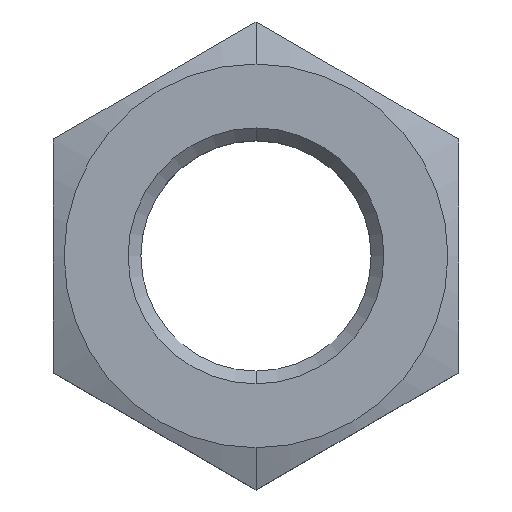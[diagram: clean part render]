
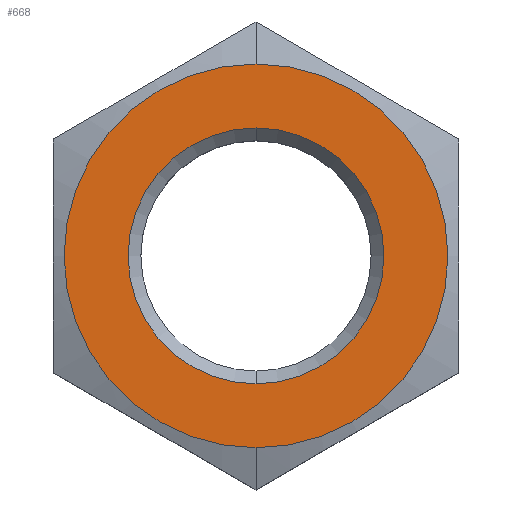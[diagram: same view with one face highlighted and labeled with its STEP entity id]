
A CAD part, top view. The second image highlights one B-rep face of the part: STEP entity #668.
In plain terms, the highlighted planar face has unit normal (0, 0, 1).
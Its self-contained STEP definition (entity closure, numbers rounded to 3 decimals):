
#127=CARTESIAN_POINT('',(0.,0.,7.));
#128=DIRECTION('',(0.,0.,1.));
#129=DIRECTION('',(0.,1.,0.));
#130=AXIS2_PLACEMENT_3D('',#127,#128,#129);
#135=CARTESIAN_POINT('',(0.,0.,7.));
#136=DIRECTION('',(0.,0.,1.));
#137=DIRECTION('',(0.,-1.,0.));
#138=AXIS2_PLACEMENT_3D('',#135,#136,#137);
#143=CARTESIAN_POINT('',(0.,0.,7.));
#144=DIRECTION('',(0.,0.,1.));
#145=DIRECTION('',(0.,1.,0.));
#146=AXIS2_PLACEMENT_3D('',#143,#144,#145);
#151=CARTESIAN_POINT('',(0.,0.,7.));
#152=DIRECTION('',(0.,0.,1.));
#153=DIRECTION('',(0.,-1.,0.));
#154=AXIS2_PLACEMENT_3D('',#151,#152,#153);
#528=CARTESIAN_POINT('',(0.,9.,7.));
#529=CARTESIAN_POINT('',(0.,-9.,7.));
#530=VERTEX_POINT('',#528);
#531=VERTEX_POINT('',#529);
#532=CARTESIAN_POINT('',(0.,6.,7.));
#533=CARTESIAN_POINT('',(0.,-6.,7.));
#534=VERTEX_POINT('',#532);
#535=VERTEX_POINT('',#533);
#652=CARTESIAN_POINT('',(0.,0.,7.));
#653=DIRECTION('',(0.,0.,1.));
#654=DIRECTION('',(1.,0.,0.));
#655=AXIS2_PLACEMENT_3D('',#652,#653,#654);
#656=PLANE('',#655);
#658=ORIENTED_EDGE('',*,*,#657,.F.);
#659=ORIENTED_EDGE('',*,*,#638,.F.);
#660=EDGE_LOOP('',(#658,#659));
#661=FACE_OUTER_BOUND('',#660,.F.);
#663=ORIENTED_EDGE('',*,*,#662,.T.);
#665=ORIENTED_EDGE('',*,*,#664,.T.);
#666=EDGE_LOOP('',(#663,#665));
#667=FACE_BOUND('',#666,.F.);
#668=ADVANCED_FACE('',(#661,#667),#656,.T.);
#131=CIRCLE('',#130,9.);
#139=CIRCLE('',#138,9.);
#147=CIRCLE('',#146,6.);
#155=CIRCLE('',#154,6.);
#638=EDGE_CURVE('',#531,#530,#139,.T.);
#657=EDGE_CURVE('',#530,#531,#131,.T.);
#662=EDGE_CURVE('',#534,#535,#147,.T.);
#664=EDGE_CURVE('',#535,#534,#155,.T.);
